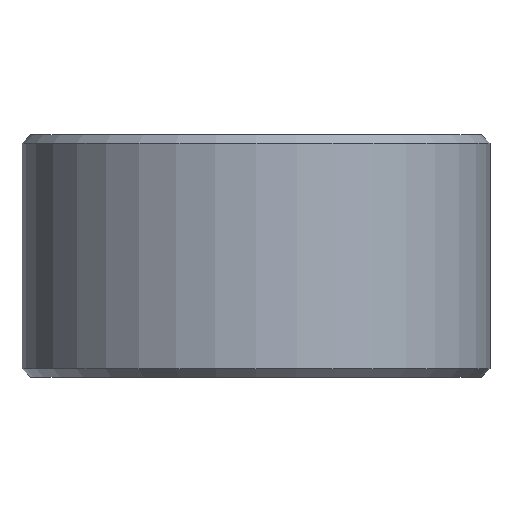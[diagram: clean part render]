
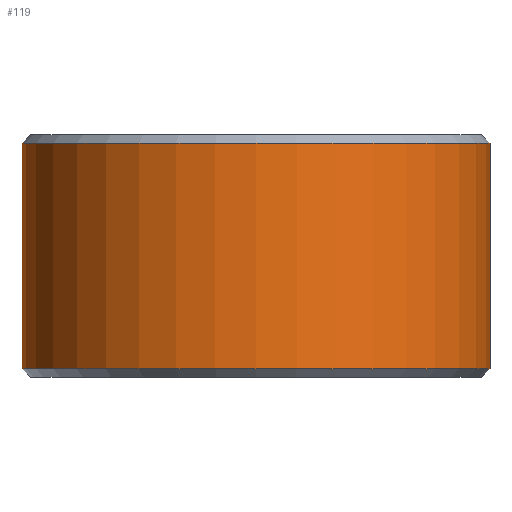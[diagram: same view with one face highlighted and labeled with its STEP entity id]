
A CAD part, front view. The second image highlights one B-rep face of the part: STEP entity #119.
In plain terms, the highlighted cylindrical face has radius 14.5 mm (diameter 29 mm), a full revolution.
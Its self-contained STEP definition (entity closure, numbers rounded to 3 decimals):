
#20=CYLINDRICAL_SURFACE('',#148,14.5);
#27=FACE_OUTER_BOUND('',#37,.T.);
#37=EDGE_LOOP('',(#101,#102,#103,#104));
#43=LINE('',#219,#49);
#49=VECTOR('',#187,14.5);
#57=CIRCLE('',#147,14.5);
#58=CIRCLE('',#149,14.5);
#65=VERTEX_POINT('',#213);
#66=VERTEX_POINT('',#217);
#77=EDGE_CURVE('',#65,#65,#57,.T.);
#78=EDGE_CURVE('',#66,#66,#58,.T.);
#79=EDGE_CURVE('',#66,#65,#43,.T.);
#101=ORIENTED_EDGE('',*,*,#78,.F.);
#102=ORIENTED_EDGE('',*,*,#79,.T.);
#103=ORIENTED_EDGE('',*,*,#77,.F.);
#104=ORIENTED_EDGE('',*,*,#79,.F.);
#119=ADVANCED_FACE('',(#27),#20,.T.);
#147=AXIS2_PLACEMENT_3D('',#215,#181,#182);
#148=AXIS2_PLACEMENT_3D('',#216,#183,#184);
#149=AXIS2_PLACEMENT_3D('',#218,#185,#186);
#181=DIRECTION('center_axis',(0.,0.,-1.));
#182=DIRECTION('ref_axis',(-1.,0.,0.));
#183=DIRECTION('center_axis',(0.,0.,1.));
#184=DIRECTION('ref_axis',(-1.,0.,0.));
#185=DIRECTION('center_axis',(0.,0.,1.));
#186=DIRECTION('ref_axis',(-1.,0.,0.));
#187=DIRECTION('',(0.,0.,-1.));
#213=CARTESIAN_POINT('',(14.5,0.,0.5));
#215=CARTESIAN_POINT('Origin',(0.,0.,0.5));
#216=CARTESIAN_POINT('Origin',(0.,0.,0.));
#217=CARTESIAN_POINT('',(14.5,0.,14.5));
#218=CARTESIAN_POINT('Origin',(0.,0.,14.5));
#219=CARTESIAN_POINT('',(14.5,0.,0.));
